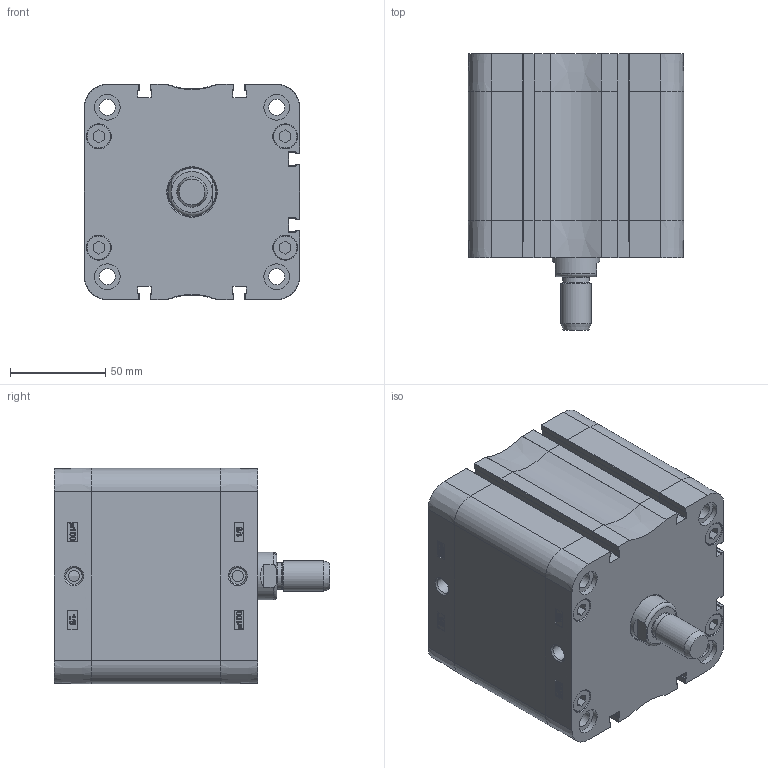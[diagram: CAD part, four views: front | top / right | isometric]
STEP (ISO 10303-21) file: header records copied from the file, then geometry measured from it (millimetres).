
FILE_DESCRIPTION((''),'2;1');
FILE_NAME('T:\Archivio Inventor\- CATALOGHI 2012\SERIE P - NUOVA\PDM\PDM100\PDM100.---.GS.M\PDM100.040.GS.M.stp','2013-02-05T11:41:34',('Administrator'),(''),'Autodesk Inventor 2012','Autodesk Inventor 2012','');
FILE_SCHEMA(('CONFIG_CONTROL_DESIGN'));
Length unit declared in the file: millimetre
Products named in the file (1): PDM100.040.GS.M
Bounding box: 113.3 x 145 x 113.3 mm (x, y, z)
Volume: 631041 mm3; surface area: 177694.7 mm2
Topology: 1 solids, 5 shells, 908 faces, 2136 edges, 1312 vertices
Faces by surface type: plane 371, bspline 226, cylinder 148, cone 81, torus 58, sphere 24
Full cylindrical faces by diameter (mm): 6 x2, 8.3 x4, 8.376 x8, 8.566 x2, 9.976 x4, 12 x1, 12.7 x8, 13.1 x8, 13.5 x8, 14 x1, 16 x1, 25 x1, 25.5 x1, 100 x1, 103.5 x1, 103.7 x1
Entity records: 29561 total; most frequent: CARTESIAN_POINT 9693, ORIENTED_EDGE 4030, DIRECTION 3400, EDGE_CURVE 2015, VERTEX_POINT 1291, AXIS2_PLACEMENT_3D 1208, EDGE_LOOP 1088, VECTOR 984
